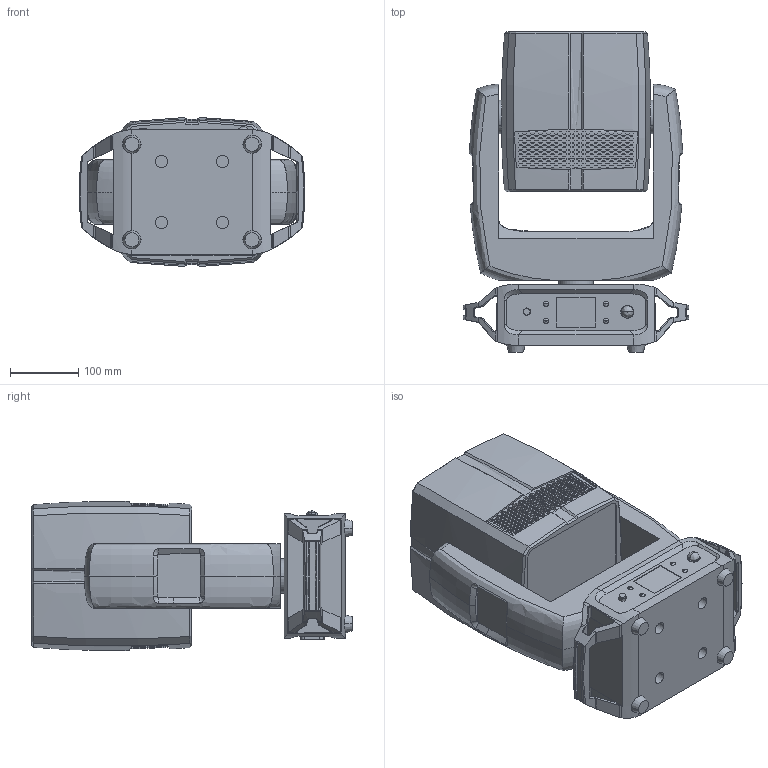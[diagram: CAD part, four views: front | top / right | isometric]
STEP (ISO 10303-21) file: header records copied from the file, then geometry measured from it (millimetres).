
FILE_DESCRIPTION((''),'2;1');
FILE_NAME('TWYN-MEDIUM-RESOLUTION_ASM','2025-10-14T17:31:08',('LeovomKolke'),(''),'CREO PARAMETRIC BY PTC INC, 2024133','CREO PARAMETRIC BY PTC INC, 2024133','');
FILE_SCHEMA(('AUTOMOTIVE_DESIGN { 1 0 10303 214 1 1 1 1 }'));
Products named in the file (7): GLP-17537_14_58; GLP-17537_14_ASM; GLP-17538_10_32; GLP-17538_10_ASM; GLP-17540_14; GLP-22095_ASM_8_ASM; TWYN-MEDIUM-RESOLUTION_ASM
Assembly tree (6 placements, depth 4):
  TWYN-MEDIUM-RESOLUTION_ASM
    GLP-22095_ASM_8_ASM
      GLP-17537_14_ASM
        GLP-17537_14_58
      GLP-17538_10_ASM
        GLP-17538_10_32
      GLP-17540_14
Bounding box: 330.19 x 469.27 x 218.02 mm (x, y, z)
Volume: 16987062.5 mm3; surface area: 834466.9 mm2
Topology: 3 solids, 3 shells, 3555 faces, 9893 edges, 6580 vertices
Faces by surface type: plane 2922, cylinder 359, bspline 116, extrusion 76, torus 44, cone 26, revolution 12
Entity records: 138748 total; most frequent: CARTESIAN_POINT 45994, ORIENTED_EDGE 19774, DIRECTION 13192, EDGE_CURVE 9887, VERTEX_POINT 6572, B_SPLINE_CURVE_WITH_KNOTS 4963, VECTOR 4800, LINE 4724
